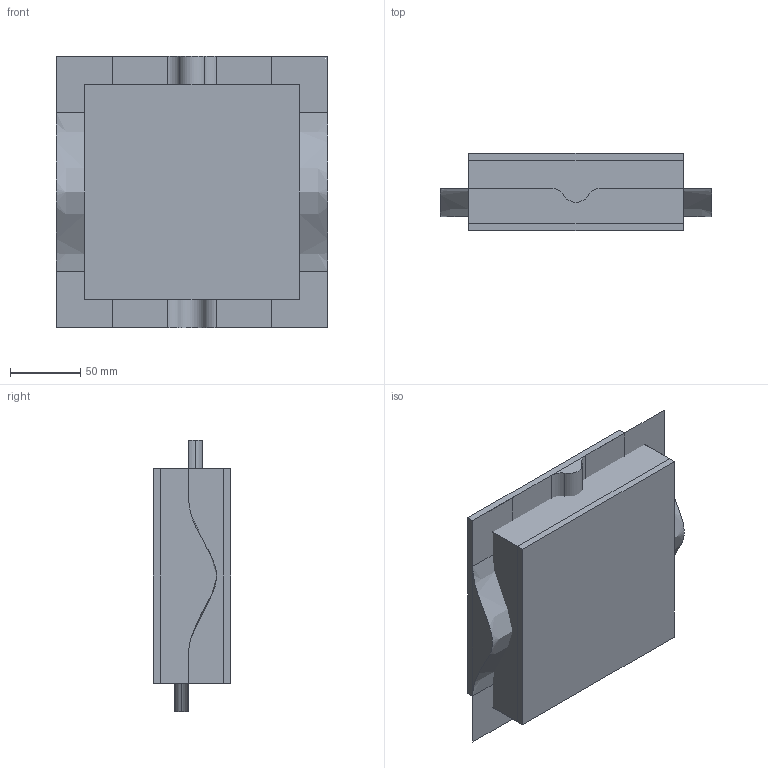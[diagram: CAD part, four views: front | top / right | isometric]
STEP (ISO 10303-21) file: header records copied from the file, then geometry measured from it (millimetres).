
FILE_DESCRIPTION(('CATIA V5 STEP Exchange'),'2;1');
FILE_NAME('C:\_Andres\UNIVERSIDAD\IQS\ASIGNATURAS\DAO\EXF\EXF-16172c\2inicio\Gumá_Abizanda_Ej02_v13.stp','2017-03-05T15:45:23+00:00',('none'),('none'),'CATIA Version 5-6 Release 2014 SP1 HF18','CATIA V5 STEP AP203','none');
FILE_SCHEMA(('CONFIG_CONTROL_DESIGN'));
Length unit declared in the file: millimetre
Products named in the file (1): Gumá_Abizanda_Ej02_v13
Bounding box: 193 x 55 x 193 mm (x, y, z)
Surface area: 238604.6 mm2
Topology: 3 solids, 10 shells, 72 faces, 205 edges, 150 vertices
Faces by surface type: bspline 32, plane 32, cylinder 6, extrusion 2
Entity records: 6734 total; most frequent: CARTESIAN_POINT 5417, ORIENTED_EDGE 288, DIRECTION 151, EDGE_CURVE 132, VERTEX_POINT 84, VECTOR 77, LINE 75, ADVANCED_FACE 72
